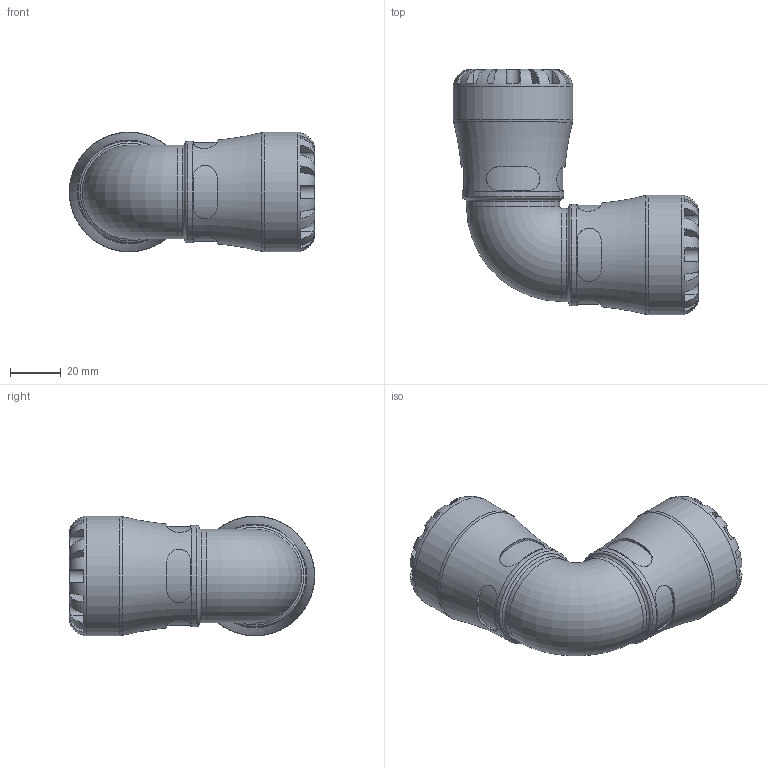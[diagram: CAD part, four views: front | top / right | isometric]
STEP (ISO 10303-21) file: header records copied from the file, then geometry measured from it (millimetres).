
FILE_DESCRIPTION(/* description */ ('PLASSON 90° ELBOW 3/4''''IPS SERIES 1'),/* implementation_level */ '2;1');
FILE_NAME(/* name */ 'C:\Dropbox\KIMPROJECTS-Inventor 2019\99-16-3568-Processing Inch\ASTM S1 2021\1005A\1005A6007.ipt.stp',/* time_stamp */ '2021-09-02T12:00:52+03:00',/* author */ ('KIM'),/* organization */ (''),/* preprocessor_version */ 'ST-DEVELOPER v17.2',/* originating_system */ 'Autodesk Inventor 2019',/* authorisation */ '');
FILE_SCHEMA (('AUTOMOTIVE_DESIGN { 1 0 10303 214 3 1 1 }'));
Length unit declared in the file: inch
Products named in the file (1): 1005A6007
Bounding box: 96.39 x 96.39 x 46.99 mm (x, y, z)
Volume: 117180.6 mm3; surface area: 33233.6 mm2
Topology: 1 solids, 1 shells, 196 faces, 521 edges, 335 vertices
Faces by surface type: plane 116, cylinder 66, torus 12, cone 2
Full cylindrical faces by diameter (mm): 22.167 x2, 26.6 x2, 36.652 x2, 39.941 x2, 46.99 x2
Entity records: 8020 total; most frequent: CARTESIAN_POINT 2949, ORIENTED_EDGE 1042, DIRECTION 1008, EDGE_CURVE 521, AXIS2_PLACEMENT_3D 418, VERTEX_POINT 335, CIRCLE 221, EDGE_LOOP 206
